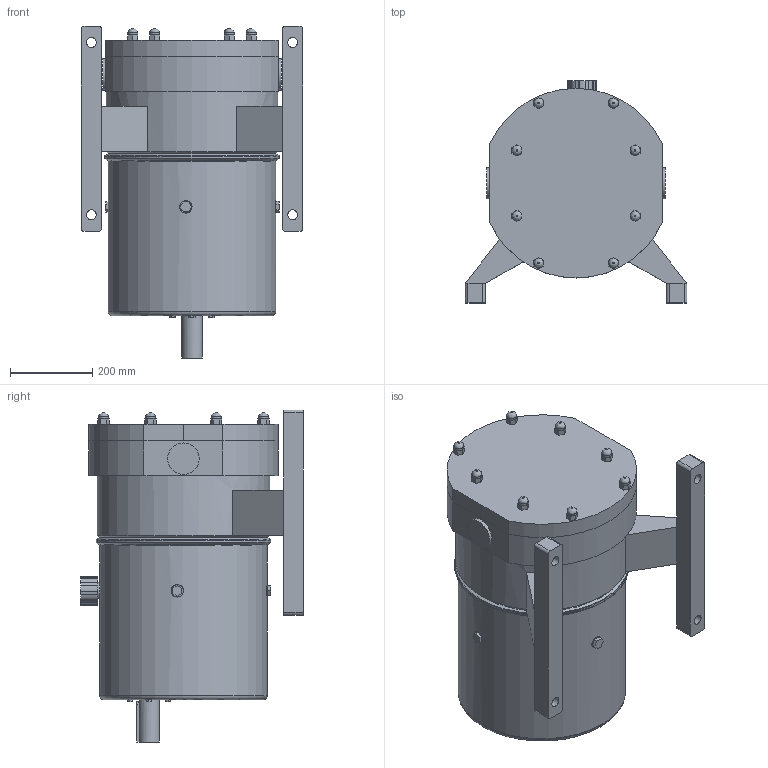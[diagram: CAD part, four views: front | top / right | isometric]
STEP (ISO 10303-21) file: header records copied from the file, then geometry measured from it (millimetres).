
FILE_DESCRIPTION(/* description */ (''),/* implementation_level */ '2;1');
FILE_NAME(/* name */ 'T:\_Engineering\Read Only\Products\_DOCUMENTATION\APV PUMPS\DRAWINGS\3D\DW\NEW_3D\STEP\DW6_172_12.5_shaft_top.stp',/* time_stamp */ '2018-10-15T13:49:05+02:00',/* author */ ('R46TAF'),/* organization */ (''),/* preprocessor_version */ 'ST-DEVELOPER v17',/* originating_system */ 'Autodesk Inventor 2018',/* authorisation */ '');
FILE_SCHEMA (('AUTOMOTIVE_DESIGN { 1 0 10303 214 3 1 1 }'));
Length unit declared in the file: millimetre
Products named in the file (1): DW6_172_12.5_shaft_top
Bounding box: 540.6 x 542.3 x 809 mm (x, y, z)
Volume: 48557448.6 mm3; surface area: 2396124.3 mm2
Topology: 1 solids, 3 shells, 318 faces, 790 edges, 503 vertices
Faces by surface type: plane 244, cylinder 51, bspline 12, cone 7, torus 4
Full cylindrical faces by diameter (mm): 24 x12, 30 x4, 42 x1, 50 x1, 76.7 x2, 90 x1, 110 x1, 405.6 x2, 408.6 x2, 420 x2, 426 x1
Entity records: 9989 total; most frequent: CARTESIAN_POINT 2089, DIRECTION 1622, ORIENTED_EDGE 1596, EDGE_CURVE 798, LINE 570, VECTOR 570, AXIS2_PLACEMENT_3D 526, VERTEX_POINT 511
